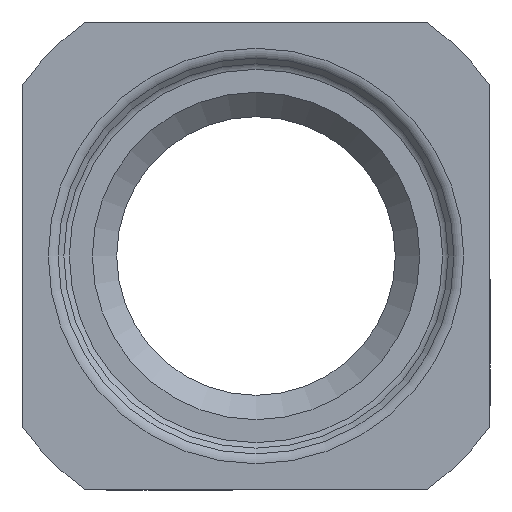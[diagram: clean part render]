
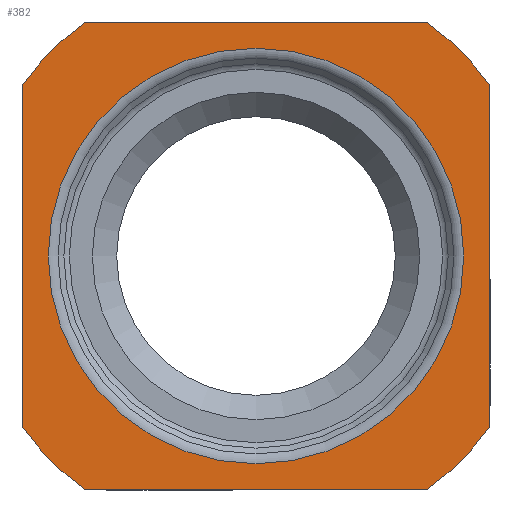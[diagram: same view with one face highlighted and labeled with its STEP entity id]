
A CAD part, front view. The second image highlights one B-rep face of the part: STEP entity #382.
In plain terms, the highlighted planar face has unit normal (0, -1, 0).
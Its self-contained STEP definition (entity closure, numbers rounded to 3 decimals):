
#27=FACE_BOUND('',#75,.T.);
#30=PLANE('',#443);
#49=FACE_OUTER_BOUND('',#74,.T.);
#74=EDGE_LOOP('',(#286,#287,#288,#289,#290,#291,#292,#293));
#75=EDGE_LOOP('',(#294));
#98=LINE('',#652,#116);
#99=LINE('',#656,#117);
#100=LINE('',#660,#118);
#101=LINE('',#663,#119);
#116=VECTOR('',#530,10.);
#117=VECTOR('',#533,10.);
#118=VECTOR('',#536,10.);
#119=VECTOR('',#539,10.);
#138=CIRCLE('',#437,7.457);
#143=CIRCLE('',#444,10.4);
#144=CIRCLE('',#445,10.4);
#145=CIRCLE('',#446,10.4);
#146=CIRCLE('',#447,10.4);
#169=VERTEX_POINT('',#636);
#173=VERTEX_POINT('',#648);
#174=VERTEX_POINT('',#649);
#175=VERTEX_POINT('',#651);
#176=VERTEX_POINT('',#653);
#177=VERTEX_POINT('',#655);
#178=VERTEX_POINT('',#657);
#179=VERTEX_POINT('',#659);
#180=VERTEX_POINT('',#661);
#209=EDGE_CURVE('',#169,#169,#138,.T.);
#215=EDGE_CURVE('',#173,#174,#143,.T.);
#216=EDGE_CURVE('',#174,#175,#98,.T.);
#217=EDGE_CURVE('',#175,#176,#144,.T.);
#218=EDGE_CURVE('',#176,#177,#99,.T.);
#219=EDGE_CURVE('',#177,#178,#145,.T.);
#220=EDGE_CURVE('',#178,#179,#100,.T.);
#221=EDGE_CURVE('',#179,#180,#146,.T.);
#222=EDGE_CURVE('',#180,#173,#101,.T.);
#286=ORIENTED_EDGE('',*,*,#215,.T.);
#287=ORIENTED_EDGE('',*,*,#216,.T.);
#288=ORIENTED_EDGE('',*,*,#217,.T.);
#289=ORIENTED_EDGE('',*,*,#218,.T.);
#290=ORIENTED_EDGE('',*,*,#219,.T.);
#291=ORIENTED_EDGE('',*,*,#220,.T.);
#292=ORIENTED_EDGE('',*,*,#221,.T.);
#293=ORIENTED_EDGE('',*,*,#222,.T.);
#294=ORIENTED_EDGE('',*,*,#209,.F.);
#382=ADVANCED_FACE('',(#49,#27),#30,.T.);
#437=AXIS2_PLACEMENT_3D('',#637,#513,#514);
#443=AXIS2_PLACEMENT_3D('',#647,#526,#527);
#444=AXIS2_PLACEMENT_3D('',#650,#528,#529);
#445=AXIS2_PLACEMENT_3D('',#654,#531,#532);
#446=AXIS2_PLACEMENT_3D('',#658,#534,#535);
#447=AXIS2_PLACEMENT_3D('',#662,#537,#538);
#513=DIRECTION('center_axis',(0.,-1.,0.));
#514=DIRECTION('ref_axis',(0.,0.,-1.));
#526=DIRECTION('center_axis',(0.,-1.,0.));
#527=DIRECTION('ref_axis',(0.,0.,-1.));
#528=DIRECTION('center_axis',(0.,-1.,0.));
#529=DIRECTION('ref_axis',(0.,0.,1.));
#530=DIRECTION('',(0.,0.,-1.));
#531=DIRECTION('center_axis',(0.,-1.,0.));
#532=DIRECTION('ref_axis',(0.,0.,1.));
#533=DIRECTION('',(1.,0.,0.));
#534=DIRECTION('center_axis',(0.,-1.,0.));
#535=DIRECTION('ref_axis',(0.,0.,1.));
#536=DIRECTION('',(0.,0.,1.));
#537=DIRECTION('center_axis',(0.,-1.,0.));
#538=DIRECTION('ref_axis',(0.,0.,1.));
#539=DIRECTION('',(-1.,0.,0.));
#636=CARTESIAN_POINT('',(0.,-7.5,-7.457));
#637=CARTESIAN_POINT('Origin',(0.,-7.5,0.));
#647=CARTESIAN_POINT('Origin',(0.,-7.5,0.));
#648=CARTESIAN_POINT('',(-6.132,-7.5,8.4));
#649=CARTESIAN_POINT('',(-8.4,-7.5,6.132));
#650=CARTESIAN_POINT('Origin',(0.,-7.5,0.));
#651=CARTESIAN_POINT('',(-8.4,-7.5,-6.132));
#652=CARTESIAN_POINT('',(-8.4,-7.5,-8.4));
#653=CARTESIAN_POINT('',(-6.132,-7.5,-8.4));
#654=CARTESIAN_POINT('Origin',(0.,-7.5,0.));
#655=CARTESIAN_POINT('',(6.132,-7.5,-8.4));
#656=CARTESIAN_POINT('',(8.4,-7.5,-8.4));
#657=CARTESIAN_POINT('',(8.4,-7.5,-6.132));
#658=CARTESIAN_POINT('Origin',(0.,-7.5,0.));
#659=CARTESIAN_POINT('',(8.4,-7.5,6.132));
#660=CARTESIAN_POINT('',(8.4,-7.5,8.4));
#661=CARTESIAN_POINT('',(6.132,-7.5,8.4));
#662=CARTESIAN_POINT('Origin',(0.,-7.5,0.));
#663=CARTESIAN_POINT('',(-8.4,-7.5,8.4));
